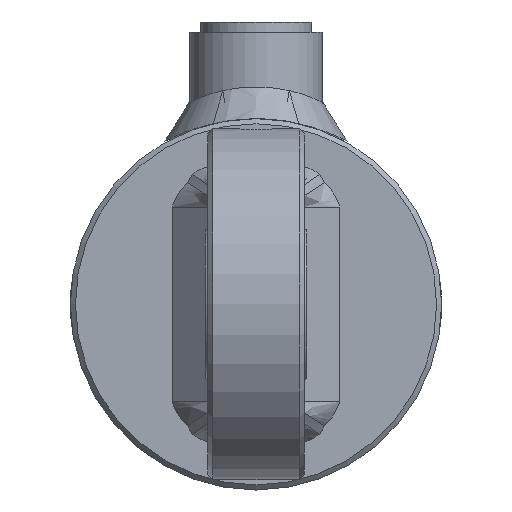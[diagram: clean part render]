
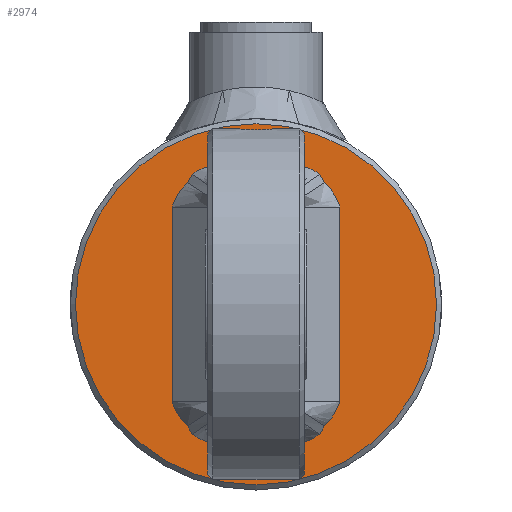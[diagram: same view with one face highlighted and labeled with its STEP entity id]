
A CAD part, left-side view. The second image highlights one B-rep face of the part: STEP entity #2974.
In plain terms, the highlighted planar face has unit normal (-1, 0, 0).
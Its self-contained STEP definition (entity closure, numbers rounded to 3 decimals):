
#2974 = ADVANCED_FACE( '', ( #8744 ), #8745, .T. );
#8744 = FACE_OUTER_BOUND( '', #10699, .T. );
#8745 = PLANE( '', #10700 );
#10699 = EDGE_LOOP( '', ( #11698 ) );
#10700 = AXIS2_PLACEMENT_3D( '', #11699, #11700, #11701 );
#11698 = ORIENTED_EDGE( '', *, *, #13048, .T. );
#11699 = CARTESIAN_POINT( '', ( -12., 0., 0. ) );
#11700 = DIRECTION( '', ( -1., 0., 0. ) );
#11701 = DIRECTION( '', ( 0., -1., 0. ) );
#13048 = EDGE_CURVE( '', #16503, #16503, #16504, .T. );
#16503 = VERTEX_POINT( '', #17356 );
#16504 = CIRCLE( '', #17357, 35.5 );
#17356 = CARTESIAN_POINT( '', ( -12., -35.5, 0. ) );
#17357 = AXIS2_PLACEMENT_3D( '', #17492, #17493, #17494 );
#17492 = CARTESIAN_POINT( '', ( -12., 0., 0. ) );
#17493 = DIRECTION( '', ( -1., 0., 0. ) );
#17494 = DIRECTION( '', ( 0., -1., 0. ) );
